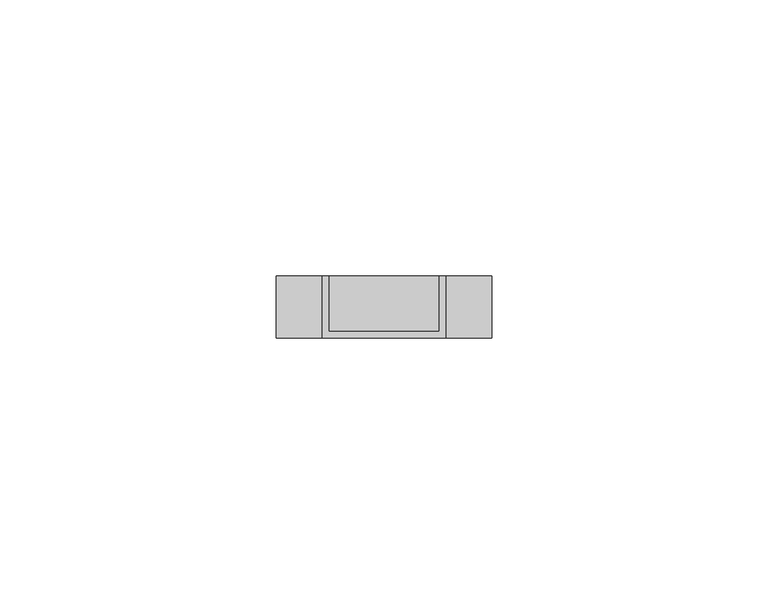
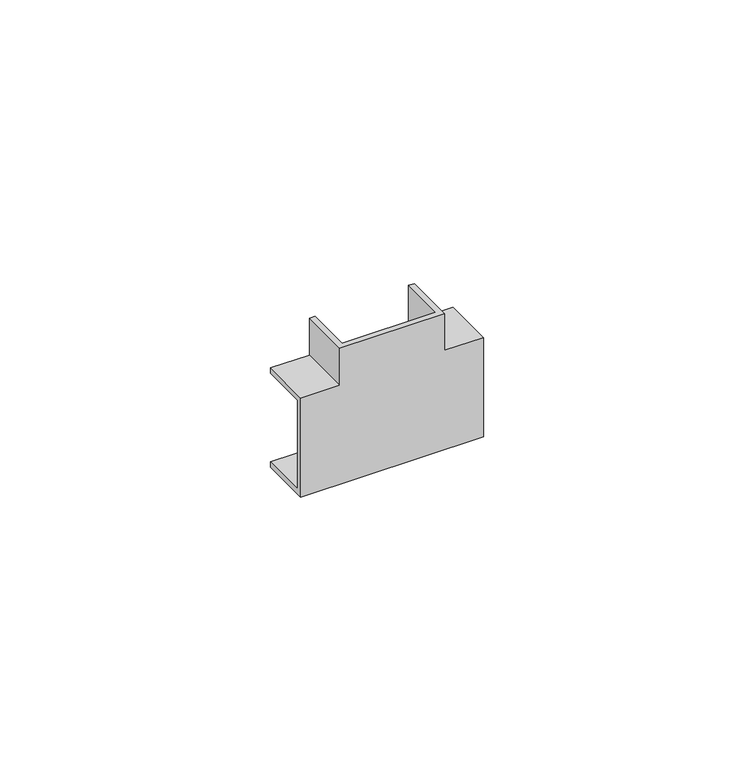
"""IFC4 building model written with IfcOpenShell, lengths in millimetres: proxy geometry, Угол_Т-образный КМТ : Угол Т-образный КМТ 20х10."""

from ifc_helpers import new_model, si_unit, origin, place, context, project, spatial, faceted_brep, source, transform, mapped, element, save


def generic_models_902de5ea(model_context):
    return source(origin(), model_context, "Body", "Brep", [
        faceted_brep([(-11.2, -11.2, 11.2), (-19.5, -11.2, 11.2), (-19.5, -11.2, -11.2), (19.5, -11.2, -11.2), (19.5, -11.2, 11.2), (11.2, -11.2, 11.2), (11.2, -11.2, 19.5), (-11.2, -11.2, 19.5), (-11.2, 0.0, 11.2), (-11.2, 0.0, 19.5), (-10.0, 0.0, 19.5), (-10.0, 0.0, 10.0), (-19.5, 0.0, 10.0), (-19.5, 0.0, 11.2), (11.2, 0.0, 19.5), (11.2, 0.0, 11.2), (19.5, 0.0, 11.2), (19.5, 0.0, 10.0), (10.0, 0.0, 10.0), (10.0, 0.0, 19.5), (19.5, 0.0, -11.2), (-19.5, 0.0, -11.2), (-19.5, 0.0, -10.0), (-10.0, 0.0, -10.0), (10.0, 0.0, -10.0), (19.5, 0.0, -10.0), (-19.5, -10.0, 10.0), (-19.5, -10.0, -10.0), (19.5, -10.0, -10.0), (19.5, -10.0, 10.0), (10.0, -10.0, 19.5), (-10.0, -10.0, 19.5), (-10.0, -10.0, 10.0), (10.0, -10.0, 10.0)], [[[0, 1, 2, 3, 4, 5, 6, 7]], [[8, 9, 10, 11, 12, 13]], [[14, 15, 16, 17, 18, 19]], [[20, 21, 22, 23, 24, 25]], [[1, 0, 8, 13]], [[2, 1, 13, 12, 26, 27, 22, 21]], [[3, 2, 21, 20]], [[4, 3, 20, 25, 28, 29, 17, 16]], [[5, 4, 16, 15]], [[6, 5, 15, 14]], [[7, 6, 14, 19, 30, 31, 10, 9]], [[0, 7, 9, 8]], [[27, 26, 32, 31, 30, 33, 29, 28]], [[22, 27, 28, 25, 24, 23]], [[26, 12, 11, 32]], [[17, 29, 33, 18]], [[33, 30, 19, 18]], [[31, 32, 11, 10]]]),
    ])


if __name__ == "__main__":
    model = new_model("IFC4")
    model_context = context("Model", 3, world=origin())
    ifc_project = project(units=[si_unit("LENGTHUNIT", "METRE", prefix="MILLI")], contexts=[model_context])
    site = spatial("IfcSite", under=ifc_project)
    building = spatial("IfcBuilding", under=site)
    placement = place(None, origin())
    generic_models_shape = generic_models_902de5ea(model_context)
    element("IfcBuildingElementProxy", 1, Name="Угол_Т-образный КМТ : Угол Т-образный КМТ 20х10", ObjectType="Угол_Т-образный КМТ : Угол Т-образный КМТ 20х10", at=placement, inside=building, context=model_context, shape_type="MappedRepresentation", body=[
        mapped(generic_models_shape, transform((0.0, 0.0, 0.0), x_axis=(1.0, 0.0, 0.0), y_axis=(0.0, 1.0, 0.0), z_axis=(0.0, 0.0, 1.0))),
    ])
    save(model, "model.ifc")
